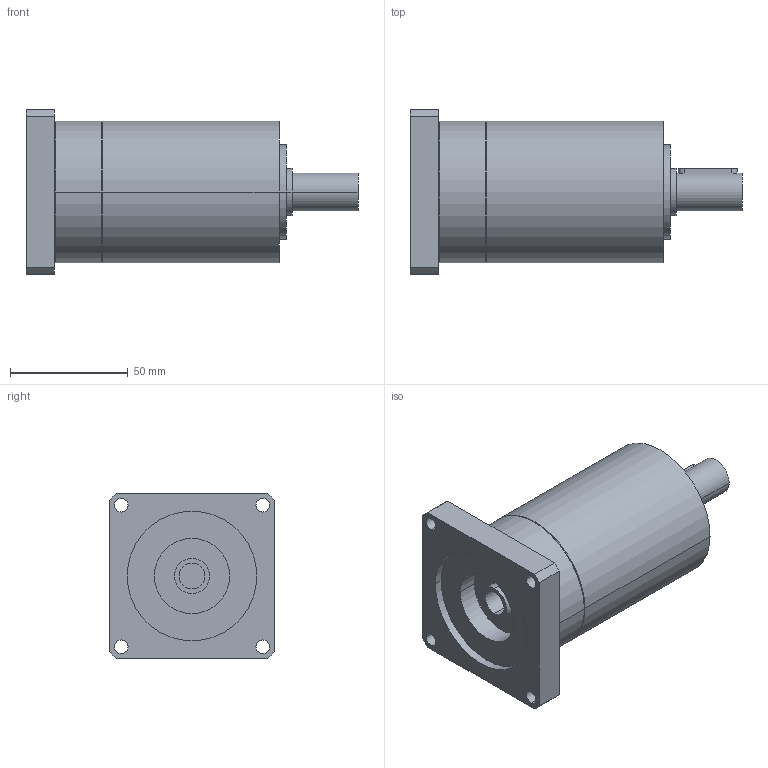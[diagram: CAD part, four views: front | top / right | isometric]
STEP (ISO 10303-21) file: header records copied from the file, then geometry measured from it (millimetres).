
FILE_DESCRIPTION(('CoCreate Modeling STEP Export'),'2;1');
FILE_NAME('GPR75_ig-9-12-16-20-24-30-36_16_B14_11_P25.stp','2014-08-25T16:01:20',(''),(''),'CoCreate Modeling STEP processor for AP214 (Solid Model)','CoCreate Modeling 16.00C 25-Feb-2009 (C) Parametric Technology GmbH','');
FILE_SCHEMA(('AUTOMOTIVE_DESIGN { 1 0 10303 214 1 1 1 1 }'));
Length unit declared in the file: millimetre
Products named in the file (2): GPR75_ig-9-12-16-20-24-30-36_16_B14_11_P25
Assembly tree (1 placements, depth 2):
  GPR75_ig-9-12-16-20-24-30-36_16_B14_11_P25
    GPR75_ig-9-12-16-20-24-30-36_16_B14_11_P25
Bounding box: 141 x 70 x 70 mm (x, y, z)
Volume: 320233.3 mm3; surface area: 40896.6 mm2
Topology: 1 solids, 1 shells, 73 faces, 198 edges, 140 vertices
Faces by surface type: cylinder 44, plane 23, cone 6
Entity records: 2024 total; most frequent: ORIENTED_EDGE 392, CARTESIAN_POINT 374, DIRECTION 272, EDGE_CURVE 196, VERTEX_POINT 140, AXIS2_PLACEMENT_3D 102, EDGE_LOOP 96, FACE_OUTER_BOUND 73
